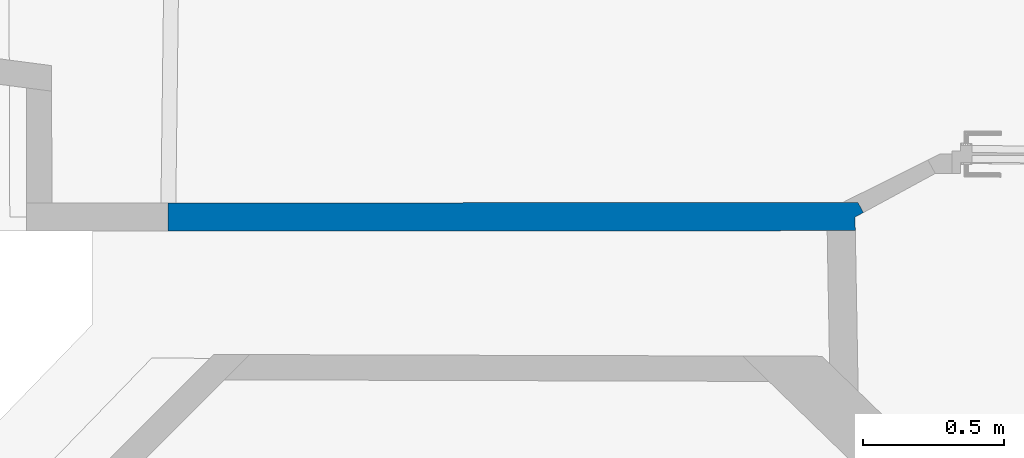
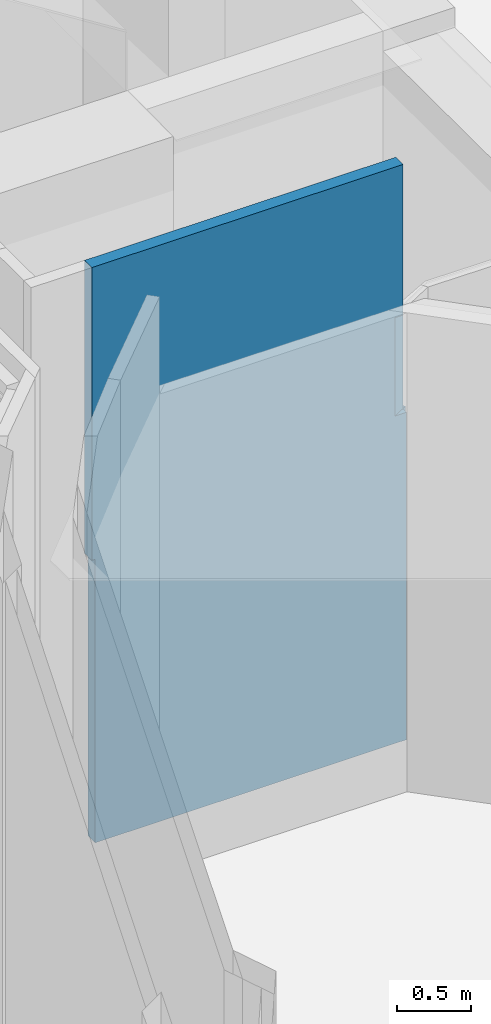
# One storey, part 45 of 97: 1 wall.
"""IFC2X3 building model written with IfcOpenShell, lengths in centimetres."""

from ifc_helpers import new_model, entity, si_unit, converted_unit, direction, frame, origin, origin_with_axes, place, context, subcontext, project, spatial, faceted_brep, material, layer, layer_set, layer_usage, type_object, element, save


model = new_model("IFC2X3")

# Units and contexts
model_context = context("Model", 3, precision=0.0001, world=origin(), true_north=direction((0.225632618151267, 0.974212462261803, 0.0)))
body_context = subcontext(model_context, "Body", "Model", "MODEL_VIEW")
ifc_project = project(units=[si_unit("LENGTHUNIT", "METRE", prefix="CENTI"), si_unit("AREAUNIT", "SQUARE_METRE", prefix="CENTI"), si_unit("VOLUMEUNIT", "CUBIC_METRE", prefix="CENTI"), converted_unit("PLANEANGLEUNIT", "DEGREE", entity("IfcRatioMeasure", 0.0174532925), si_unit("PLANEANGLEUNIT", "RADIAN"), dimensions=[0, 0, 0, 0, 0, 0, 0])], contexts=[model_context])

# Site, building, storey
site_placement = place(None, origin_with_axes())
site = spatial("IfcSite", under=ifc_project, at=site_placement, Name="Default Site", CompositionType="ELEMENT")
building_placement = place(site_placement, origin_with_axes())
building = spatial("IfcBuilding", under=site, at=building_placement, Name="Default Building", CompositionType="ELEMENT")
storey_placement = place(building_placement, origin_with_axes())
storey = spatial("IfcBuildingStorey", under=building, at=storey_placement, Name="Rez-de-chaussée", CompositionType="ELEMENT", Elevation=0.0)

# Wall
ifc_material = material(Name="<aucun>")
ifc_layer = layer(ifc_material, 10.0)
ifc_layer_set = layer_set([ifc_layer], Name="default")
ifc_layer_usage = layer_usage(ifc_layer_set, "AXIS2", "POSITIVE", -5.0)
wall_type = type_object("IfcWallType", Name="default 100", PredefinedType="NOTDEFINED", material=ifc_layer_set)
wall_placement = place(storey_placement, frame((-1079.45722920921, -548.953489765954, 0.0128503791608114), z_axis=(0.0, 0.0, 1.0), x_axis=(0.99999990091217, 0.000445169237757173, 0.0)))
element("IfcWall", 1, at=wall_placement, inside=storey, type_object=wall_type, material=ifc_layer_usage, Name="Enveloppe 3078", context=body_context, shape_type="Brep", body=[
    faceted_brep([(-2.14261561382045e-05, 4.99997617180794, 247.861600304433), (2.70793707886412, 4.99997617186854, 247.861600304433), (2.70793707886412, 4.99997617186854, 234.987140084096), (-2.14261561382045e-05, 4.99997617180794, 234.987140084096), (68.6790320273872, 4.99997617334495, 247.861600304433), (68.6790320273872, 4.99997617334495, -4.62607735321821e-10), (-2.14261561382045e-05, 4.99997617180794, -4.62607735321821e-10), (-2.14261561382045e-05, 4.99997617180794, 213.787150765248), (245.125296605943, 5.00000194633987, -4.62607735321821e-10), (239.715673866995, 5.00000194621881, -4.62607735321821e-10), (239.715673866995, 5.00000194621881, 247.861600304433), (245.125296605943, 5.00000194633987, 247.861600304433), (239.715673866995, 4.99997827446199, -4.62607735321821e-10), (185.120388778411, 4.99997827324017, -4.62607735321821e-10), (185.120388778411, 4.99997827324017, 247.861600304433), (239.715673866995, 4.99997827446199, 247.861600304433), (185.120388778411, 5.00001140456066, -4.62607735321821e-10), (68.6790320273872, 5.00001140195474, -4.62607735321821e-10), (68.6790320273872, 5.00001140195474, 247.861600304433), (185.120388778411, 5.00001140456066, 247.861600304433), (-2.57847092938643, 4.99997960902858, 247.861600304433), (-2.14261561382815e-05, 4.99997960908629, 247.861600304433), (-2.14261561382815e-05, 4.99997960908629, 234.987140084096), (-2.57847092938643, 4.99997960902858, 234.987140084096), (-2.70797990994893, 4.99997960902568, 234.987140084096), (-2.70797990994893, 4.99997960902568, 247.861600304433), (239.715673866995, 5.00000194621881, 267.795348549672), (245.125296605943, 5.00000194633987, 267.795348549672), (-2.57847092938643, 4.99997960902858, 267.795348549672), (2.70793707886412, 4.99997960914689, 267.795348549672), (2.70793707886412, 4.99997960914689, 247.861600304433), (239.715673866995, 4.99997961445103, 267.795348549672), (239.715673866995, 4.99997961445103, 247.861600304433), (185.120388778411, 4.99997961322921, 247.861600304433), (68.6790320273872, 4.9999796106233, 247.861600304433), (-2.70797990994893, 4.99997960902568, 267.795348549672), (241.170694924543, 4.99999811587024, 267.795348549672), (239.715673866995, 4.99999811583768, 267.795348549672), (239.715673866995, 4.99999811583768, 277.995348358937), (241.170694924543, 4.99999811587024, 277.995348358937), (239.715673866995, 4.99999811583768, 337.78250255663), (241.170694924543, 4.99999811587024, 337.78250255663), (-2.57847092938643, 4.99997960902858, 337.78250255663), (2.70793707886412, 4.99997960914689, 337.78250255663), (-2.70797990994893, 4.99997960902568, 337.78250255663), (239.715673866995, 4.99997827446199, 267.795348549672), (2.70793707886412, 4.99997826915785, 267.795348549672), (2.70793707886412, 4.99997826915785, 337.78250255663), (239.715673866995, 4.99997827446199, 337.78250255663), (239.715673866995, 4.99997827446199, 277.995348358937), (241.170694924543, 5.00000194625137, 267.795348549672), (241.170694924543, 5.00000194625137, 271.482515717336), (245.125296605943, 5.00000194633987, 271.482515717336), (239.715673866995, 4.99999811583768, 352.895355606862), (241.170694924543, 4.99999811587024, 352.895355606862), (-2.57847092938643, 4.99997960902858, 352.895355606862), (2.70793707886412, 4.99997960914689, 352.895355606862), (-2.70797990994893, 4.99998957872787, 380.695367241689), (223.532200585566, 4.99998958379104, 380.695367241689), (233.057500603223, 4.99998958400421, 380.695367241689), (241.170694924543, 4.99998958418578, 380.695367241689), (241.170694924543, 4.99998958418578, 352.895355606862), (239.715673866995, 4.99998958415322, 352.895355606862), (239.715673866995, 4.99998958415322, 337.78250255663), (2.70793707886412, 4.99998957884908, 337.78250255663), (2.70793707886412, 4.99998957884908, 352.895355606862), (-2.57847092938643, 4.99998957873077, 352.895355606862), (-2.57847092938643, 4.99998957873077, 337.78250255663), (-2.70797990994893, 4.99998957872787, 337.78250255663), (241.474058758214, 5.00000611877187, 352.895355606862), (241.170694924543, 5.00000611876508, 352.895355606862), (241.170694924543, 5.00000611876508, 380.695367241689), (241.474058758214, 5.00000611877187, 380.695367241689), (233.057500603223, 5.00000611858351, 380.695367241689), (233.057500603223, 5.00000611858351, 477.795339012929), (241.474058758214, 5.00000611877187, 477.795339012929), (233.057500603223, 4.99998589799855, 380.695367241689), (223.532200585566, 4.99998589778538, 380.695367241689), (223.532200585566, 4.99998589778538, 477.795339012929), (233.057500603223, 4.99998589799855, 477.795339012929), (223.532200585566, 4.99998241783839, 380.695367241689), (-2.70797990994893, 4.99998241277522, 380.695367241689), (-2.70797990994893, 4.99998241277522, 477.795339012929), (0.230577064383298, 4.99998241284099, 477.795339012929), (223.532200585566, 4.99998241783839, 477.795339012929), (9.15455480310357e-06, -5.00001529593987, -4.62607735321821e-10), (68.6600844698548, -5.00001529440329, -4.62607735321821e-10), (68.6600844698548, -5.00001529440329, 247.861600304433), (9.15455480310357e-06, -5.00001529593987, 247.861600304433), (9.15455480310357e-06, -5.00001529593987, 234.987140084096), (9.15455480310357e-06, -5.00001529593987, 213.787150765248), (234.162362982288, -5.00002056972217, -4.62607735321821e-10), (244.163928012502, -5.00002056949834, -4.62607735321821e-10), (244.163928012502, -5.00002056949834, 247.861600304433), (234.162362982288, -5.00002056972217, 247.861600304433), (185.339001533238, -5.00002057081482, 247.861600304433), (185.339001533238, -5.00002057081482, -4.62607735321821e-10), (68.6600844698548, -5.00001538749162, -4.62607735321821e-10), (185.339001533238, -5.00001538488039, -4.62607735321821e-10), (185.339001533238, -5.00001538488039, 247.861600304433), (68.6600844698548, -5.00001538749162, 247.861600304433), (-2.70794932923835, -5.00000188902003, 234.987140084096), (9.15455480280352e-06, -5.00000188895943, 234.987140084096), (9.15455480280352e-06, -5.00000188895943, 247.861600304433), (-2.70794932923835, -5.00000188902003, 247.861600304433), (244.163928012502, -5.00002056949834, 267.795348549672), (234.162362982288, -5.00002056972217, 267.795348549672), (-2.70794932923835, -5.00002057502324, 267.795348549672), (-2.70794932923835, -5.00002057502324, 247.861600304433), (9.15455480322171e-06, -5.00002057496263, 247.861600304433), (68.6600844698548, -5.00002057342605, 247.861600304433), (235.175451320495, -5.0000205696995, 267.795348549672), (235.175451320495, -5.0000205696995, 271.482515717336), (234.162362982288, -5.00002056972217, 271.482515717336), (235.175451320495, -5.0000205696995, 337.78250255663), (-2.70794932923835, -5.00002057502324, 337.78250255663), (235.175451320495, -4.99999472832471, 267.795348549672), (244.163928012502, -4.99999472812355, 267.795348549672), (244.163928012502, -4.99999472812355, 271.482515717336), (235.175451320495, -4.99999472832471, 271.482515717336), (-2.70794932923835, -5.00000188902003, 337.78250255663), (235.175451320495, -5.0000018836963, 337.78250255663), (235.175451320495, -5.0000018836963, 352.895355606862), (235.175451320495, -5.0000018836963, 380.695367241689), (233.098920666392, -5.00000188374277, 380.695367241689), (-2.70794932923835, -5.00000188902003, 380.695367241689), (235.175451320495, -4.99999472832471, 352.895355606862), (241.474089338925, -4.99999472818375, 352.895355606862), (241.474089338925, -4.99999472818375, 380.695367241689), (235.175451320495, -4.99999472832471, 380.695367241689), (233.098920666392, -5.00000188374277, 477.795339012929), (-2.70794932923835, -5.00000188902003, 477.795339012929), (233.098920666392, -4.99997631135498, 380.695367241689), (235.175451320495, -4.99997631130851, 380.695367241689), (241.474089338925, -4.99997631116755, 380.695367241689), (241.474089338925, -4.99997631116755, 477.795339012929), (233.098920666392, -4.99997631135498, 477.795339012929), (68.6790320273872, 5.00001531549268, -4.62607735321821e-10), (9.15433100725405e-06, 4.99997617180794, 213.787150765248), (9.15433100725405e-06, 4.99997617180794, -4.62607735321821e-10), (9.15433100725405e-06, 4.99997617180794, 234.987140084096), (244.163928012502, -4.99999068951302, -4.62607735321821e-10), (185.339001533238, -4.99998200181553, -4.62607735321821e-10), (247.051381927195, 1.45805605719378, -4.62607735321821e-10), (244.079585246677, -0.158005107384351, -4.62607735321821e-10), (245.125292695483, 4.99999981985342, -4.62607735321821e-10), (245.125292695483, 4.99999981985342, 247.861600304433), (247.051381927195, 1.45805605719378, 247.861600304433), (-2.70797990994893, 4.99998957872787, 234.987140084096), (-2.70799397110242, -3.81491836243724, 247.861600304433), (-2.70799397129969, 4.99998957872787, 247.861600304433), (-2.70799397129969, 4.99998957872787, 234.987140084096), (-2.70799397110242, -3.81491836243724, 234.987140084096), (-2.70794932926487, -3.81491836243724, 247.861600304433), (-2.70794932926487, -3.81491836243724, 234.987140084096), (-2.70799397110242, -3.81491836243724, 267.795348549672), (-2.70799397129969, 4.99998957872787, 267.795348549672), (245.125292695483, 4.99999981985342, 267.795348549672), (247.051381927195, 1.45805605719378, 267.795348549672), (-2.70794932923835, -5.00000188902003, 267.795348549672), (-2.70794932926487, -3.81491836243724, 267.795348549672), (-2.70799397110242, -3.81491836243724, 337.78250255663), (-2.70799397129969, 4.99998957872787, 337.78250255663), (243.999361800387, -0.201647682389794, 271.482515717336), (241.170726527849, 5.00001530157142, 271.482515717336), (241.170726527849, 5.00001530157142, 277.995348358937), (243.999361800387, -0.201647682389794, 277.995348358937), (-2.70794932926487, -3.81491836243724, 337.78250255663), (243.999361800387, -0.201647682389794, 337.78250255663), (241.474093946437, -1.57487423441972, 337.78250255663), (235.175470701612, -5.00003036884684, 337.78250255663), (235.175470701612, -5.00003036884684, 271.482515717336), (241.474090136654, 4.44215078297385, 277.995348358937), (241.474090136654, 4.44215078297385, 337.78250255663), (241.474096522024, 4.44215425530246, 277.995348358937), (241.170732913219, 5.00001877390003, 277.995348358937), (241.170732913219, 5.00001877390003, 337.78250255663), (241.474096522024, 4.44215425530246, 337.78250255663), (247.051381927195, 1.45805605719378, 271.482515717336), (241.170694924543, 4.99999811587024, 271.482515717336), (244.079585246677, -0.158005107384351, 271.482515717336), (245.125292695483, 4.99999981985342, 271.482515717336), (244.163928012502, -4.99999068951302, 271.482515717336), (241.170732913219, 5.00001877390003, 352.895355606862), (241.474096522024, 4.44215425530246, 352.895355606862), (-2.70799397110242, -3.81491836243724, 380.695367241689), (-2.70799397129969, 4.99998957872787, 380.695367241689), (241.474096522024, 4.44215425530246, 380.695367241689), (241.474096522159, -1.57486370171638, 380.695367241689), (241.474096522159, -1.57486370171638, 352.895355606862), (-2.70794932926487, -3.81491836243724, 380.695367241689), (241.474088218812, -1.57486370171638, 352.895355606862), (243.999361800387, -0.201647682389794, 352.895355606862), (241.474090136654, 4.44215078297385, 352.895355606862), (241.474096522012, 5.00000611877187, 352.895355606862), (241.474096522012, 5.00000611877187, 380.695367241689), (241.474089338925, -4.99998534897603, 352.895355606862), (241.474089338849, -1.57486370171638, 352.895355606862), (241.474089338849, -1.57486370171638, 380.695367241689), (241.474089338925, -4.99998534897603, 380.695367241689), (233.096162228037, -4.34108143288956, 477.795339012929), (223.511457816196, -4.31969616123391, 477.795339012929), (203.695172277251, -4.27549323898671, 477.795339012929), (0.293883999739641, -3.82159528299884, 477.795339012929), (-2.70799397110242, -3.81491836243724, 477.795339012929), (-2.7079939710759, -5.00000188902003, 380.695367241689), (-2.7079939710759, -5.00000188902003, 477.795339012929), (241.474089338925, -4.99998534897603, 477.795339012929), (241.474089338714, 4.44215425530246, 380.695367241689), (241.474089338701, 5.00000611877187, 380.695367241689), (241.474089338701, 5.00000611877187, 477.795339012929), (241.474089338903, -4.00453998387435, 477.795339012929), (-2.70797990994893, 4.99998957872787, 477.795339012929), (-2.70797990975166, -3.81491836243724, 380.695367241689), (-2.70797990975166, -3.81491836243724, 477.795339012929), (247.05138810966, 1.45804468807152, -4.62607735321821e-10), (247.05138810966, 1.45804468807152, 247.861600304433), (244.079585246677, -0.158005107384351, 247.861600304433), (247.05138810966, 1.45804468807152, 267.795348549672), (244.079585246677, -0.158005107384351, 267.795348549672), (247.05138810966, 1.45804468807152, 271.482515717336), (235.175464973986, -5.0000198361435, 352.895355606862), (235.175464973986, -5.0000198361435, 337.78250255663), (241.474088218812, -1.57486370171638, 337.78250255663), (243.999356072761, -0.201637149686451, 337.78250255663), (243.999356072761, -0.201637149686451, 352.895355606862), (244.079626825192, -0.158004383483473, -4.62607735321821e-10), (244.079626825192, -0.158004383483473, 247.861600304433), (244.163928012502, -4.99999068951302, 247.861600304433), (244.079626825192, -0.158004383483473, 267.795348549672), (244.163928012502, -4.99999068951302, 267.795348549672), (244.079626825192, -0.158004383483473, 271.482515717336)], [[[0, 1, 2, 3]], [[3, 2, 1, 4, 5, 6, 7]], [[8, 9, 10, 11]], [[12, 13, 14, 15]], [[16, 17, 18, 19]], [[20, 21, 22, 23]], [[23, 24, 25, 20]], [[11, 10, 26, 27]], [[28, 29, 30, 20]], [[20, 30, 29, 31, 32, 33, 34, 30, 20, 25, 35, 28]], [[36, 37, 38, 39]], [[39, 38, 40, 41]], [[42, 43, 29, 28]], [[28, 35, 44, 42]], [[45, 46, 47, 48, 49]], [[27, 50, 51, 52]], [[41, 40, 53, 54]], [[55, 56, 43, 42]], [[57, 58, 59, 60, 61, 62, 63, 64, 65, 66, 67, 68]], [[69, 70, 71, 72]], [[72, 71, 73, 74, 75]], [[76, 77, 78, 79]], [[80, 81, 82, 83, 84]], [[85, 86, 87, 88, 89, 90]], [[91, 92, 93, 94]], [[94, 95, 96, 91]], [[97, 98, 99, 100]], [[101, 102, 103, 104]], [[94, 93, 105, 106]], [[106, 107, 108, 109, 110, 95, 94]], [[106, 111, 112, 113]], [[113, 112, 114, 115, 107, 106]], [[116, 117, 118, 119]], [[120, 121, 122, 123, 124, 125]], [[126, 127, 128, 129]], [[125, 124, 130, 131]], [[132, 133, 134, 135, 136]], [[6, 137, 97, 85]], [[90, 138, 139, 85]], [[89, 140, 138, 90]], [[141, 142, 16, 8, 143, 144]], [[143, 145, 146, 147]], [[142, 97, 137, 16]], [[148, 3, 89, 101]], [[149, 150, 151, 152]], [[104, 153, 154, 101]], [[155, 156, 150, 149]], [[147, 146, 157, 158]], [[159, 160, 153, 104]], [[161, 162, 156, 155]], [[163, 164, 165, 166]], [[120, 167, 160, 159]], [[168, 169, 170, 171, 163, 166]], [[166, 172, 173, 168]], [[174, 175, 176, 177]], [[178, 52, 179, 163, 180]], [[158, 157, 181, 178]], [[119, 182, 180, 163]], [[177, 176, 183, 184]], [[185, 186, 162, 161]], [[187, 188, 189, 184]], [[125, 190, 167, 120]], [[184, 191, 192]], [[168, 173, 193, 192]], [[69, 184, 54]], [[184, 194, 195, 187]], [[196, 126, 191]], [[196, 197, 198, 199]], [[136, 200, 201, 202, 203, 204, 131]], [[185, 205, 206, 204]], [[75, 79, 200, 136, 207]], [[199, 198, 208, 209, 210, 211, 207]], [[79, 84, 201, 200]], [[201, 84, 212, 204]], [[57, 213, 214, 212]], [[144, 215, 216, 217]], [[217, 216, 218, 219]], [[219, 218, 220, 180]], [[191, 221, 222, 223]], [[223, 224, 225, 191]], [[141, 226, 227, 228]], [[228, 227, 229, 230]], [[230, 229, 231, 182]]]),
])

save(model, "model.ifc")
